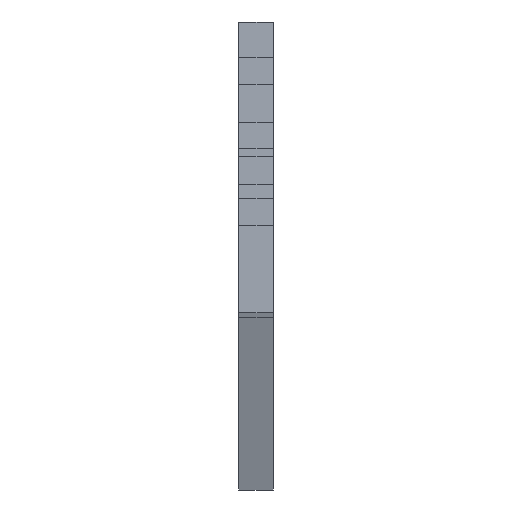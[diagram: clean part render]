
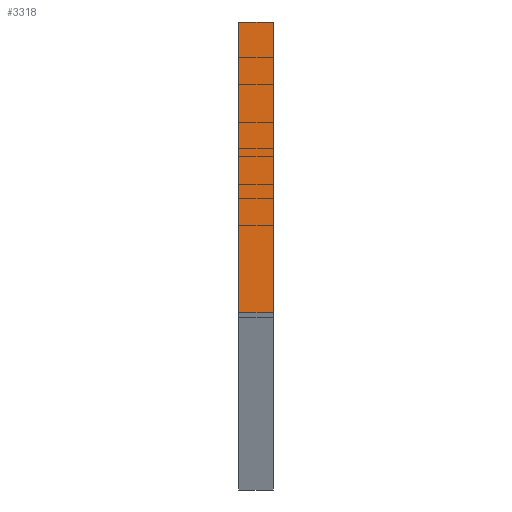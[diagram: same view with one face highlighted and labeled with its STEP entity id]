
A CAD part, left-side view. The second image highlights one B-rep face of the part: STEP entity #3318.
In plain terms, the highlighted planar face has unit normal (-1, 0, 0.028).
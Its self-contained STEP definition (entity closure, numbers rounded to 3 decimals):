
#407=DIRECTION('',(0.028,0.,1.));
#408=VECTOR('',#407,25.);
#409=CARTESIAN_POINT('',(-81.644,-19.,70.621));
#410=LINE('',#409,#408);
#833=DIRECTION('',(0.028,0.,1.));
#834=VECTOR('',#833,25.);
#835=CARTESIAN_POINT('',(-81.644,-16.,70.621));
#836=LINE('',#835,#834);
#1201=DIRECTION('',(0.,-1.,0.));
#1202=VECTOR('',#1201,3.);
#1203=CARTESIAN_POINT('',(-80.935,-16.,95.611));
#1204=LINE('',#1203,#1202);
#1205=DIRECTION('',(0.,-1.,0.));
#1206=VECTOR('',#1205,3.);
#1207=CARTESIAN_POINT('',(-81.644,-16.,70.621));
#1208=LINE('',#1207,#1206);
#1494=CARTESIAN_POINT('',(-81.644,-16.,70.621));
#1496=VERTEX_POINT('',#1494);
#1497=CARTESIAN_POINT('',(-80.935,-16.,95.611));
#1498=VERTEX_POINT('',#1497);
#1542=CARTESIAN_POINT('',(-81.644,-19.,70.621));
#1544=VERTEX_POINT('',#1542);
#1545=CARTESIAN_POINT('',(-80.935,-19.,95.611));
#1546=VERTEX_POINT('',#1545);
#3306=CARTESIAN_POINT('',(-81.644,-16.,70.621));
#3307=DIRECTION('',(-1.,0.,0.028));
#3308=DIRECTION('',(0.028,0.,1.));
#3309=AXIS2_PLACEMENT_3D('',#3306,#3307,#3308);
#3310=PLANE('',#3309);
#3311=ORIENTED_EDGE('',*,*,#1887,.T.);
#3312=ORIENTED_EDGE('',*,*,#3301,.T.);
#3313=ORIENTED_EDGE('',*,*,#1610,.F.);
#3315=ORIENTED_EDGE('',*,*,#3314,.F.);
#3316=EDGE_LOOP('',(#3311,#3312,#3313,#3315));
#3317=FACE_OUTER_BOUND('',#3316,.F.);
#3318=ADVANCED_FACE('',(#3317),#3310,.T.);
#1610=EDGE_CURVE('',#1544,#1546,#410,.T.);
#1887=EDGE_CURVE('',#1496,#1498,#836,.T.);
#3301=EDGE_CURVE('',#1498,#1546,#1204,.T.);
#3314=EDGE_CURVE('',#1496,#1544,#1208,.T.);
